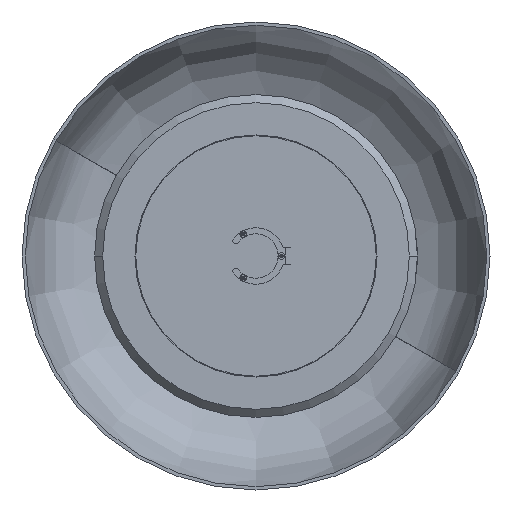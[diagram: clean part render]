
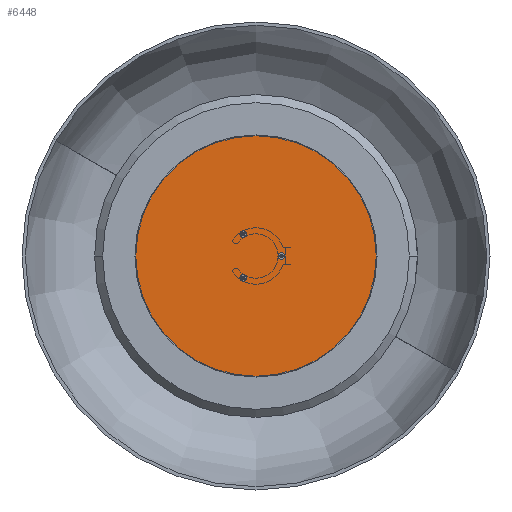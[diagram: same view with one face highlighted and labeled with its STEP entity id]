
A CAD part, front view. The second image highlights one B-rep face of the part: STEP entity #6448.
In plain terms, the highlighted planar face has unit normal (0, -1, 0).
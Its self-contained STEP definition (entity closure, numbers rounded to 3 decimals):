
#6275=CARTESIAN_POINT('',(0.,0.,0.));
#6276=DIRECTION('',(0.,1.,0.));
#6277=DIRECTION('',(1.,0.,0.));
#6278=AXIS2_PLACEMENT_3D('',#6275,#6276,#6277);
#6280=CARTESIAN_POINT('',(0.,0.,0.));
#6281=DIRECTION('',(0.,1.,0.));
#6282=DIRECTION('',(-1.,0.,0.));
#6283=AXIS2_PLACEMENT_3D('',#6280,#6281,#6282);
#6285=CARTESIAN_POINT('',(31.5,0.,0.));
#6286=DIRECTION('',(0.,1.,0.));
#6287=DIRECTION('',(-1.,0.,0.));
#6288=AXIS2_PLACEMENT_3D('',#6285,#6286,#6287);
#6290=CARTESIAN_POINT('',(31.5,0.,0.));
#6291=DIRECTION('',(0.,1.,0.));
#6292=DIRECTION('',(1.,0.,0.));
#6293=AXIS2_PLACEMENT_3D('',#6290,#6291,#6292);
#6295=CARTESIAN_POINT('',(-15.75,0.,-27.28));
#6296=DIRECTION('',(0.,1.,0.));
#6297=DIRECTION('',(0.5,0.,0.866));
#6298=AXIS2_PLACEMENT_3D('',#6295,#6296,#6297);
#6300=CARTESIAN_POINT('',(-15.75,0.,-27.28));
#6301=DIRECTION('',(0.,1.,0.));
#6302=DIRECTION('',(-0.5,0.,-0.866));
#6303=AXIS2_PLACEMENT_3D('',#6300,#6301,#6302);
#6305=CARTESIAN_POINT('',(-15.75,0.,27.28));
#6306=DIRECTION('',(0.,1.,0.));
#6307=DIRECTION('',(0.5,0.,-0.866));
#6308=AXIS2_PLACEMENT_3D('',#6305,#6306,#6307);
#6310=CARTESIAN_POINT('',(-15.75,0.,27.28));
#6311=DIRECTION('',(0.,1.,0.));
#6312=DIRECTION('',(-0.5,0.,0.866));
#6313=AXIS2_PLACEMENT_3D('',#6310,#6311,#6312);
#6387=CARTESIAN_POINT('',(149.,0.,0.));
#6388=CARTESIAN_POINT('',(-149.,0.,0.));
#6389=VERTEX_POINT('',#6387);
#6390=VERTEX_POINT('',#6388);
#6395=CARTESIAN_POINT('',(27.25,0.,0.));
#6396=CARTESIAN_POINT('',(35.75,0.,0.));
#6397=VERTEX_POINT('',#6395);
#6398=VERTEX_POINT('',#6396);
#6403=CARTESIAN_POINT('',(-13.625,0.,-23.599));
#6404=CARTESIAN_POINT('',(-17.875,0.,-30.96));
#6405=VERTEX_POINT('',#6403);
#6406=VERTEX_POINT('',#6404);
#6411=CARTESIAN_POINT('',(-13.625,0.,23.599));
#6412=CARTESIAN_POINT('',(-17.875,0.,30.96));
#6413=VERTEX_POINT('',#6411);
#6414=VERTEX_POINT('',#6412);
#6419=CARTESIAN_POINT('',(0.,0.,0.));
#6420=DIRECTION('',(0.,1.,0.));
#6421=DIRECTION('',(1.,0.,0.));
#6422=AXIS2_PLACEMENT_3D('',#6419,#6420,#6421);
#6423=PLANE('',#6422);
#6425=ORIENTED_EDGE('',*,*,#6424,.T.);
#6427=ORIENTED_EDGE('',*,*,#6426,.T.);
#6428=EDGE_LOOP('',(#6425,#6427));
#6429=FACE_OUTER_BOUND('',#6428,.F.);
#6431=ORIENTED_EDGE('',*,*,#6430,.F.);
#6433=ORIENTED_EDGE('',*,*,#6432,.F.);
#6434=EDGE_LOOP('',(#6431,#6433));
#6435=FACE_BOUND('',#6434,.F.);
#6437=ORIENTED_EDGE('',*,*,#6436,.F.);
#6439=ORIENTED_EDGE('',*,*,#6438,.F.);
#6440=EDGE_LOOP('',(#6437,#6439));
#6441=FACE_BOUND('',#6440,.F.);
#6443=ORIENTED_EDGE('',*,*,#6442,.F.);
#6445=ORIENTED_EDGE('',*,*,#6444,.F.);
#6446=EDGE_LOOP('',(#6443,#6445));
#6447=FACE_BOUND('',#6446,.F.);
#6448=ADVANCED_FACE('',(#6429,#6435,#6441,#6447),#6423,.F.);
#6279=CIRCLE('',#6278,149.);
#6284=CIRCLE('',#6283,149.);
#6289=CIRCLE('',#6288,4.25);
#6294=CIRCLE('',#6293,4.25);
#6299=CIRCLE('',#6298,4.25);
#6304=CIRCLE('',#6303,4.25);
#6309=CIRCLE('',#6308,4.25);
#6314=CIRCLE('',#6313,4.25);
#6424=EDGE_CURVE('',#6389,#6390,#6279,.T.);
#6426=EDGE_CURVE('',#6390,#6389,#6284,.T.);
#6430=EDGE_CURVE('',#6397,#6398,#6289,.T.);
#6432=EDGE_CURVE('',#6398,#6397,#6294,.T.);
#6436=EDGE_CURVE('',#6405,#6406,#6299,.T.);
#6438=EDGE_CURVE('',#6406,#6405,#6304,.T.);
#6442=EDGE_CURVE('',#6413,#6414,#6309,.T.);
#6444=EDGE_CURVE('',#6414,#6413,#6314,.T.);
